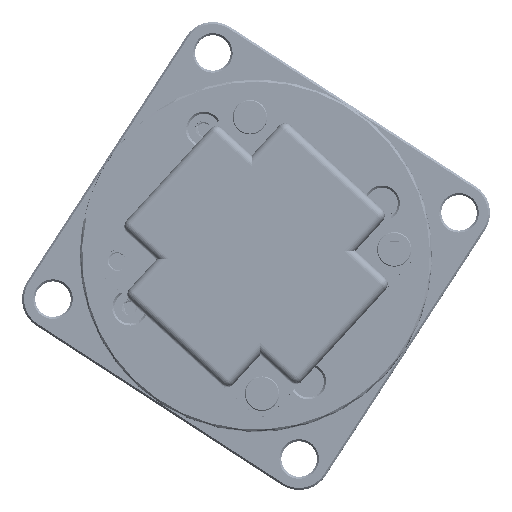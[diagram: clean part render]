
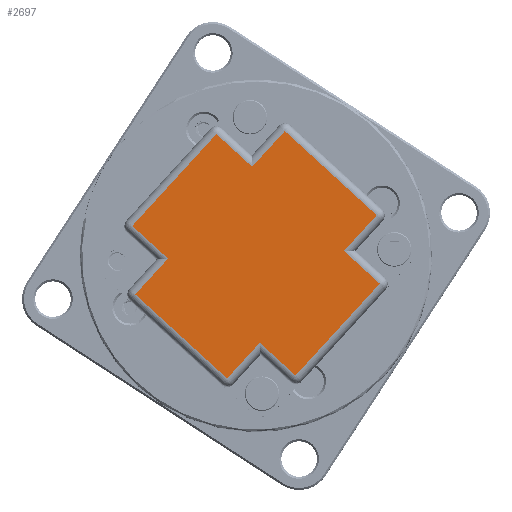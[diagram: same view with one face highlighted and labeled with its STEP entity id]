
A CAD part, top view. The second image highlights one B-rep face of the part: STEP entity #2697.
In plain terms, the highlighted planar face has unit normal (0, 0, 1).
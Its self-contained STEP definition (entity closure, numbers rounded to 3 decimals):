
#716=FACE_OUTER_BOUND('',#7440,.T.);
#2697=ADVANCED_FACE('',(#716),#3837,.F.);
#3837=PLANE('',#19446);
#4422=LINE('',#79928,#5327);
#4423=LINE('',#79931,#5328);
#4424=LINE('',#79933,#5329);
#4425=LINE('',#79935,#5330);
#4426=LINE('',#79937,#5331);
#4427=LINE('',#79939,#5332);
#4428=LINE('',#79941,#5333);
#4429=LINE('',#79943,#5334);
#4430=LINE('',#79945,#5335);
#4431=LINE('',#79947,#5336);
#4432=LINE('',#79949,#5337);
#4433=LINE('',#79951,#5338);
#5327=VECTOR('',#21750,1.);
#5328=VECTOR('',#21751,1.);
#5329=VECTOR('',#21752,1.);
#5330=VECTOR('',#21753,1.);
#5331=VECTOR('',#21754,1.);
#5332=VECTOR('',#21755,1.);
#5333=VECTOR('',#21756,1.);
#5334=VECTOR('',#21757,1.);
#5335=VECTOR('',#21758,1.);
#5336=VECTOR('',#21759,1.);
#5337=VECTOR('',#21760,1.);
#5338=VECTOR('',#21761,1.);
#7440=EDGE_LOOP('',(#9762,#9763,#9764,#9765,#9766,#9767,#9768,#9769,#9770,
#9771,#9772,#9773));
#9762=ORIENTED_EDGE('',*,*,#16243,.T.);
#9763=ORIENTED_EDGE('',*,*,#16244,.T.);
#9764=ORIENTED_EDGE('',*,*,#16245,.T.);
#9765=ORIENTED_EDGE('',*,*,#16246,.T.);
#9766=ORIENTED_EDGE('',*,*,#16247,.T.);
#9767=ORIENTED_EDGE('',*,*,#16248,.T.);
#9768=ORIENTED_EDGE('',*,*,#16249,.T.);
#9769=ORIENTED_EDGE('',*,*,#16250,.T.);
#9770=ORIENTED_EDGE('',*,*,#16251,.T.);
#9771=ORIENTED_EDGE('',*,*,#16252,.T.);
#9772=ORIENTED_EDGE('',*,*,#16253,.T.);
#9773=ORIENTED_EDGE('',*,*,#16254,.T.);
#14303=VERTEX_POINT('',#79929);
#14304=VERTEX_POINT('',#79930);
#14305=VERTEX_POINT('',#79932);
#14306=VERTEX_POINT('',#79934);
#14307=VERTEX_POINT('',#79936);
#14308=VERTEX_POINT('',#79938);
#14309=VERTEX_POINT('',#79940);
#14310=VERTEX_POINT('',#79942);
#14311=VERTEX_POINT('',#79944);
#14312=VERTEX_POINT('',#79946);
#14313=VERTEX_POINT('',#79948);
#14314=VERTEX_POINT('',#79950);
#16243=EDGE_CURVE('',#14303,#14304,#4422,.T.);
#16244=EDGE_CURVE('',#14304,#14305,#4423,.T.);
#16245=EDGE_CURVE('',#14305,#14306,#4424,.T.);
#16246=EDGE_CURVE('',#14306,#14307,#4425,.T.);
#16247=EDGE_CURVE('',#14307,#14308,#4426,.T.);
#16248=EDGE_CURVE('',#14308,#14309,#4427,.T.);
#16249=EDGE_CURVE('',#14309,#14310,#4428,.T.);
#16250=EDGE_CURVE('',#14310,#14311,#4429,.T.);
#16251=EDGE_CURVE('',#14311,#14312,#4430,.T.);
#16252=EDGE_CURVE('',#14312,#14313,#4431,.T.);
#16253=EDGE_CURVE('',#14313,#14314,#4432,.T.);
#16254=EDGE_CURVE('',#14314,#14303,#4433,.T.);
#19446=AXIS2_PLACEMENT_3D('',#79952,#21762,#21763);
#21750=DIRECTION('',(0.676,0.737,0.));
#21751=DIRECTION('',(-0.737,0.676,0.));
#21752=DIRECTION('',(0.676,0.737,0.));
#21753=DIRECTION('',(-0.737,0.676,0.));
#21754=DIRECTION('',(-0.676,-0.737,0.));
#21755=DIRECTION('',(-0.737,0.676,0.));
#21756=DIRECTION('',(-0.676,-0.737,0.));
#21757=DIRECTION('',(0.737,-0.676,0.));
#21758=DIRECTION('',(-0.676,-0.737,0.));
#21759=DIRECTION('',(0.737,-0.676,0.));
#21760=DIRECTION('',(0.676,0.737,0.));
#21761=DIRECTION('',(0.737,-0.676,0.));
#21762=DIRECTION('',(0.,0.,-1.));
#21763=DIRECTION('',(0.737,-0.676,0.));
#79928=CARTESIAN_POINT('',(32.635,-5.831,210.5));
#79929=CARTESIAN_POINT('',(10.004,-30.528,210.5));
#79930=CARTESIAN_POINT('',(31.283,-7.305,210.5));
#79931=CARTESIAN_POINT('',(23.725,-0.38,210.5));
#79932=CARTESIAN_POINT('',(22.251,0.971,210.5));
#79933=CARTESIAN_POINT('',(31.879,11.479,210.5));
#79934=CARTESIAN_POINT('',(30.528,10.004,210.5));
#79935=CARTESIAN_POINT('',(5.831,32.635,210.5));
#79936=CARTESIAN_POINT('',(7.305,31.283,210.5));
#79937=CARTESIAN_POINT('',(-11.611,10.64,210.5));
#79938=CARTESIAN_POINT('',(-0.971,22.251,210.5));
#79939=CARTESIAN_POINT('',(10.64,11.611,210.5));
#79940=CARTESIAN_POINT('',(-10.004,30.528,210.5));
#79941=CARTESIAN_POINT('',(-32.635,5.831,210.5));
#79942=CARTESIAN_POINT('',(-31.283,7.305,210.5));
#79943=CARTESIAN_POINT('',(-23.725,0.38,210.5));
#79944=CARTESIAN_POINT('',(-22.251,-0.971,210.5));
#79945=CARTESIAN_POINT('',(-31.879,-11.479,210.5));
#79946=CARTESIAN_POINT('',(-30.528,-10.004,210.5));
#79947=CARTESIAN_POINT('',(-5.831,-32.635,210.5));
#79948=CARTESIAN_POINT('',(-7.305,-31.283,210.5));
#79949=CARTESIAN_POINT('',(-0.38,-23.725,210.5));
#79950=CARTESIAN_POINT('',(0.971,-22.251,210.5));
#79951=CARTESIAN_POINT('',(11.479,-31.879,210.5));
#79952=CARTESIAN_POINT('',(0.,0.,210.5));
